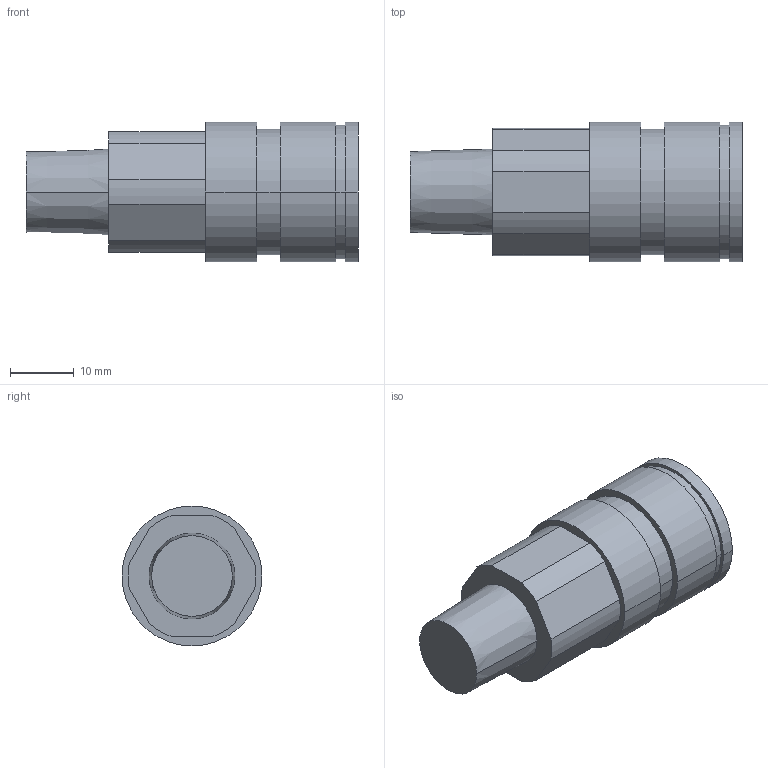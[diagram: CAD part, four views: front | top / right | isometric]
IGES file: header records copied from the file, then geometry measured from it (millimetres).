
Global section: file name: No Iges File Name specified; native system: Autodesk Inventor 2009; preprocessor: AutoDesk Inventor Iges Exporter R2009; author: y-shimohigashi; date: 20080701.161238; units: millimetre
Bounding box: 52.2 x 22 x 22 mm (x, y, z)
Volume: 12184.3 mm3; surface area: 4899.6 mm2
Topology: 1 solids, 1 shells, 35 faces, 78 edges, 52 vertices
Faces by surface type: cylinder 16, plane 15, cone 2, revolution 2
